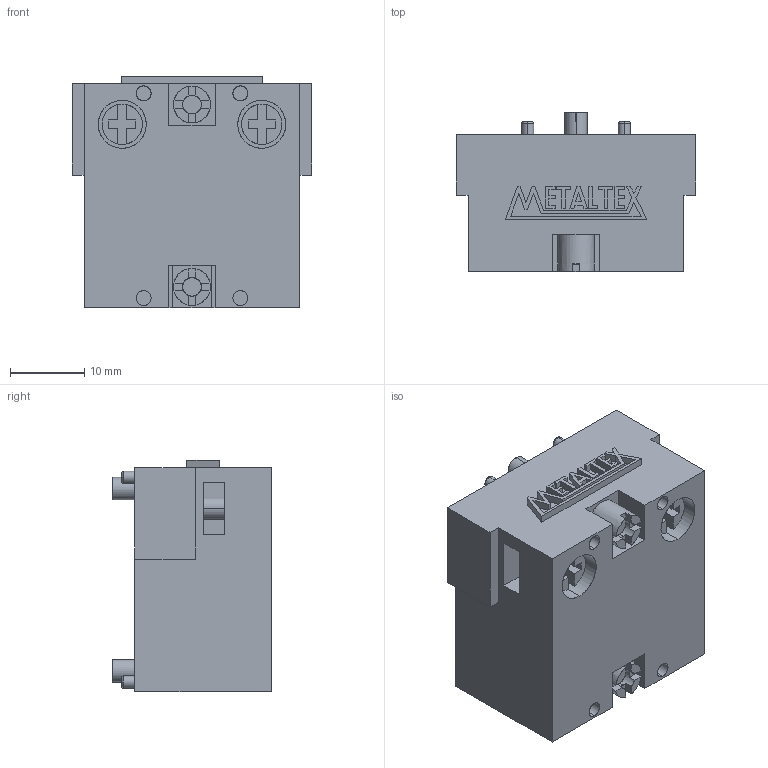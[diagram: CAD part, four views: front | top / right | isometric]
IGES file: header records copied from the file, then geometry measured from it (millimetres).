
Start section: SolidWorks IGES file using analytic representation for surfaces
Global section: file name: D:\X - Arquivos\PROEX\Empresas\P11 - METALTEX\01 - Produtos\IGES\Primeira remessa\M20-IL.IGS; native system: SolidWorks 2012; preprocessor: SolidWorks 2012; author: Usuario; date: 180117.114308; units: millimetre
Bounding box: 32.15 x 21.4 x 31.15 mm (x, y, z)
Surface area: 5515.1 mm2 (no closed solid volume)
Topology: 0 solids, 0 shells, 252 faces, 2312 edges, 2312 vertices
Faces by surface type: bspline 210, revolution 42
